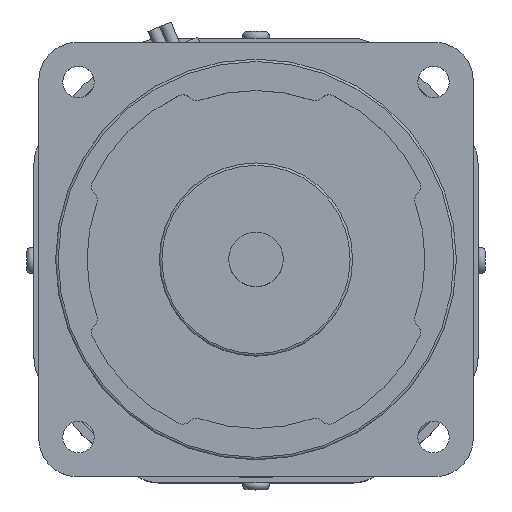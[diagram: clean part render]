
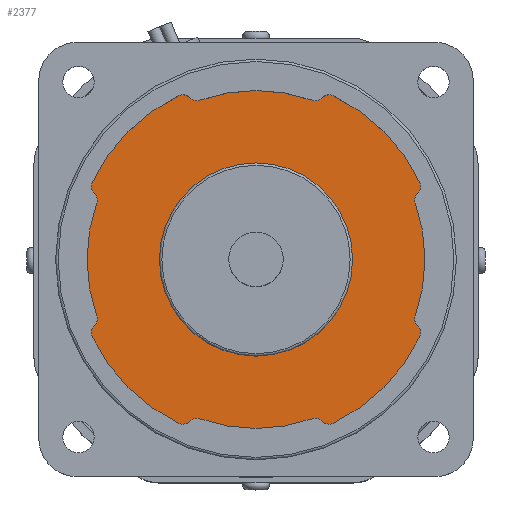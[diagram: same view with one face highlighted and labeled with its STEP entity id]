
A CAD part, top view. The second image highlights one B-rep face of the part: STEP entity #2377.
In plain terms, the highlighted planar face has unit normal (0, 0, 1).
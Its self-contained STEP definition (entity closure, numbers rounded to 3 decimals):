
#1058=CARTESIAN_POINT('',(20.0,0.,175.0));
#1059=VERTEX_POINT('',#1058);
#1060=CARTESIAN_POINT('',(0.,0.,175.0));
#1061=DIRECTION('',(0.0,0.0,-1.0));
#1062=DIRECTION('',(-1.0,0.0,0.0));
#1063=AXIS2_PLACEMENT_3D('',#1060,#1061,#1062);
#1064=CIRCLE('',#1063,20.0);
#1065=EDGE_CURVE('',#1059,#1059,#1064,.T.);
#1088=CARTESIAN_POINT('',(-13.722,-33.501,175.));
#1089=VERTEX_POINT('',#1088);
#1105=CARTESIAN_POINT('',(-11.626,-33.013,175.));
#1106=VERTEX_POINT('',#1105);
#1113=CARTESIAN_POINT('',(-12.291,-34.899,175.0));
#1114=DIRECTION('',(0.0,0.0,-1.0));
#1115=DIRECTION('',(-0.408,0.913,0.0));
#1116=AXIS2_PLACEMENT_3D('',#1113,#1114,#1115);
#1117=CIRCLE('',#1116,2.0);
#1118=EDGE_CURVE('',#1106,#1089,#1117,.F.);
#1138=CARTESIAN_POINT('',(11.626,-33.013,175.));
#1139=VERTEX_POINT('',#1138);
#1146=CARTESIAN_POINT('',(0.,0.,175.0));
#1147=DIRECTION('',(0.,0.,1.0));
#1148=DIRECTION('',(-0.383,-0.924,0.));
#1149=AXIS2_PLACEMENT_3D('',#1146,#1147,#1148);
#1150=CIRCLE('',#1149,35.0);
#1151=EDGE_CURVE('',#1106,#1139,#1150,.T.);
#1161=CARTESIAN_POINT('',(13.722,-33.501,175.));
#1162=VERTEX_POINT('',#1161);
#1171=CARTESIAN_POINT('',(12.291,-34.899,175.0));
#1172=DIRECTION('',(0.0,0.0,-1.0));
#1173=DIRECTION('',(0.408,0.913,0.0));
#1174=AXIS2_PLACEMENT_3D('',#1171,#1172,#1173);
#1175=CIRCLE('',#1174,2.0);
#1176=EDGE_CURVE('',#1162,#1139,#1175,.F.);
#1203=CARTESIAN_POINT('',(16.006,-33.913,175.));
#1204=VERTEX_POINT('',#1203);
#1211=CARTESIAN_POINT('',(15.152,-32.104,175.0));
#1212=DIRECTION('',(0.0,0.0,1.0));
#1213=DIRECTION('',(0.715,0.699,0.0));
#1214=AXIS2_PLACEMENT_3D('',#1211,#1212,#1213);
#1215=CIRCLE('',#1214,2.);
#1216=EDGE_CURVE('',#1162,#1204,#1215,.T.);
#1227=CARTESIAN_POINT('',(33.913,-16.006,175.));
#1228=VERTEX_POINT('',#1227);
#1237=CARTESIAN_POINT('',(0.,0.,175.0));
#1238=DIRECTION('',(0.,0.,1.0));
#1239=DIRECTION('',(0.383,-0.924,0.));
#1240=AXIS2_PLACEMENT_3D('',#1237,#1238,#1239);
#1241=CIRCLE('',#1240,37.5);
#1242=EDGE_CURVE('',#1204,#1228,#1241,.T.);
#1269=CARTESIAN_POINT('',(33.501,-13.722,175.));
#1270=VERTEX_POINT('',#1269);
#1277=CARTESIAN_POINT('',(32.104,-15.152,175.0));
#1278=DIRECTION('',(0.0,0.0,1.0));
#1279=DIRECTION('',(-0.904,0.427,0.0));
#1280=AXIS2_PLACEMENT_3D('',#1277,#1278,#1279);
#1281=CIRCLE('',#1280,2.);
#1282=EDGE_CURVE('',#1228,#1270,#1281,.T.);
#1303=CARTESIAN_POINT('',(33.013,-11.626,175.));
#1304=VERTEX_POINT('',#1303);
#1311=CARTESIAN_POINT('',(34.899,-12.291,175.0));
#1312=DIRECTION('',(0.0,0.0,-1.0));
#1313=DIRECTION('',(-0.913,-0.408,0.0));
#1314=AXIS2_PLACEMENT_3D('',#1311,#1312,#1313);
#1315=CIRCLE('',#1314,2.0);
#1316=EDGE_CURVE('',#1304,#1270,#1315,.F.);
#1326=CARTESIAN_POINT('',(33.013,11.626,175.));
#1327=VERTEX_POINT('',#1326);
#1336=CARTESIAN_POINT('',(0.,0.,175.0));
#1337=DIRECTION('',(0.,0.,1.0));
#1338=DIRECTION('',(0.924,-0.383,0.));
#1339=AXIS2_PLACEMENT_3D('',#1336,#1337,#1338);
#1340=CIRCLE('',#1339,35.);
#1341=EDGE_CURVE('',#1304,#1327,#1340,.T.);
#1359=CARTESIAN_POINT('',(33.501,13.722,175.));
#1360=VERTEX_POINT('',#1359);
#1369=CARTESIAN_POINT('',(34.899,12.291,175.0));
#1370=DIRECTION('',(0.0,0.0,-1.0));
#1371=DIRECTION('',(-0.913,0.408,0.0));
#1372=AXIS2_PLACEMENT_3D('',#1369,#1370,#1371);
#1373=CIRCLE('',#1372,2.0);
#1374=EDGE_CURVE('',#1360,#1327,#1373,.F.);
#1401=CARTESIAN_POINT('',(33.913,16.006,175.));
#1402=VERTEX_POINT('',#1401);
#1409=CARTESIAN_POINT('',(32.104,15.152,175.0));
#1410=DIRECTION('',(0.0,0.0,1.0));
#1411=DIRECTION('',(-0.699,0.715,0.0));
#1412=AXIS2_PLACEMENT_3D('',#1409,#1410,#1411);
#1413=CIRCLE('',#1412,2.);
#1414=EDGE_CURVE('',#1360,#1402,#1413,.T.);
#1425=CARTESIAN_POINT('',(16.006,33.913,175.));
#1426=VERTEX_POINT('',#1425);
#1435=CARTESIAN_POINT('',(0.,0.,175.0));
#1436=DIRECTION('',(0.,0.,1.0));
#1437=DIRECTION('',(0.924,0.383,0.));
#1438=AXIS2_PLACEMENT_3D('',#1435,#1436,#1437);
#1439=CIRCLE('',#1438,37.5);
#1440=EDGE_CURVE('',#1402,#1426,#1439,.T.);
#1467=CARTESIAN_POINT('',(13.722,33.501,175.));
#1468=VERTEX_POINT('',#1467);
#1475=CARTESIAN_POINT('',(15.152,32.104,175.0));
#1476=DIRECTION('',(0.0,0.0,1.0));
#1477=DIRECTION('',(-0.427,-0.904,0.0));
#1478=AXIS2_PLACEMENT_3D('',#1475,#1476,#1477);
#1479=CIRCLE('',#1478,2.);
#1480=EDGE_CURVE('',#1426,#1468,#1479,.T.);
#1501=CARTESIAN_POINT('',(11.626,33.013,175.));
#1502=VERTEX_POINT('',#1501);
#1509=CARTESIAN_POINT('',(12.291,34.899,175.0));
#1510=DIRECTION('',(0.0,0.0,-1.0));
#1511=DIRECTION('',(0.408,-0.913,0.0));
#1512=AXIS2_PLACEMENT_3D('',#1509,#1510,#1511);
#1513=CIRCLE('',#1512,2.0);
#1514=EDGE_CURVE('',#1502,#1468,#1513,.F.);
#1524=CARTESIAN_POINT('',(-11.626,33.013,175.));
#1525=VERTEX_POINT('',#1524);
#1534=CARTESIAN_POINT('',(0.,0.,175.0));
#1535=DIRECTION('',(0.,0.,1.0));
#1536=DIRECTION('',(0.383,0.924,0.));
#1537=AXIS2_PLACEMENT_3D('',#1534,#1535,#1536);
#1538=CIRCLE('',#1537,35.0);
#1539=EDGE_CURVE('',#1502,#1525,#1538,.T.);
#1557=CARTESIAN_POINT('',(-13.722,33.501,175.));
#1558=VERTEX_POINT('',#1557);
#1567=CARTESIAN_POINT('',(-12.291,34.899,175.0));
#1568=DIRECTION('',(0.0,0.0,-1.0));
#1569=DIRECTION('',(-0.408,-0.913,0.0));
#1570=AXIS2_PLACEMENT_3D('',#1567,#1568,#1569);
#1571=CIRCLE('',#1570,2.0);
#1572=EDGE_CURVE('',#1558,#1525,#1571,.F.);
#1599=CARTESIAN_POINT('',(-16.006,33.913,175.));
#1600=VERTEX_POINT('',#1599);
#1607=CARTESIAN_POINT('',(-15.152,32.104,175.0));
#1608=DIRECTION('',(0.0,0.0,1.0));
#1609=DIRECTION('',(-0.715,-0.699,0.0));
#1610=AXIS2_PLACEMENT_3D('',#1607,#1608,#1609);
#1611=CIRCLE('',#1610,2.);
#1612=EDGE_CURVE('',#1558,#1600,#1611,.T.);
#1633=CARTESIAN_POINT('',(-33.913,16.006,175.));
#1634=VERTEX_POINT('',#1633);
#1641=CARTESIAN_POINT('',(0.,0.,175.0));
#1642=DIRECTION('',(0.,0.,1.0));
#1643=DIRECTION('',(-0.383,0.924,0.));
#1644=AXIS2_PLACEMENT_3D('',#1641,#1642,#1643);
#1645=CIRCLE('',#1644,37.5);
#1646=EDGE_CURVE('',#1600,#1634,#1645,.T.);
#1665=CARTESIAN_POINT('',(-33.501,13.722,175.));
#1666=VERTEX_POINT('',#1665);
#1673=CARTESIAN_POINT('',(-32.104,15.152,175.0));
#1674=DIRECTION('',(0.0,0.0,1.0));
#1675=DIRECTION('',(0.904,-0.427,0.0));
#1676=AXIS2_PLACEMENT_3D('',#1673,#1674,#1675);
#1677=CIRCLE('',#1676,2.);
#1678=EDGE_CURVE('',#1634,#1666,#1677,.T.);
#1699=CARTESIAN_POINT('',(-33.013,11.626,175.));
#1700=VERTEX_POINT('',#1699);
#1707=CARTESIAN_POINT('',(-34.899,12.291,175.0));
#1708=DIRECTION('',(0.0,0.0,-1.0));
#1709=DIRECTION('',(0.913,0.408,0.0));
#1710=AXIS2_PLACEMENT_3D('',#1707,#1708,#1709);
#1711=CIRCLE('',#1710,2.0);
#1712=EDGE_CURVE('',#1700,#1666,#1711,.F.);
#1722=CARTESIAN_POINT('',(-33.013,-11.626,175.));
#1723=VERTEX_POINT('',#1722);
#1732=CARTESIAN_POINT('',(0.,0.,175.0));
#1733=DIRECTION('',(0.,0.,1.0));
#1734=DIRECTION('',(-0.924,0.383,0.));
#1735=AXIS2_PLACEMENT_3D('',#1732,#1733,#1734);
#1736=CIRCLE('',#1735,35.0);
#1737=EDGE_CURVE('',#1700,#1723,#1736,.T.);
#1755=CARTESIAN_POINT('',(-33.501,-13.722,175.));
#1756=VERTEX_POINT('',#1755);
#1765=CARTESIAN_POINT('',(-34.899,-12.291,175.0));
#1766=DIRECTION('',(0.0,0.0,-1.0));
#1767=DIRECTION('',(0.913,-0.408,0.0));
#1768=AXIS2_PLACEMENT_3D('',#1765,#1766,#1767);
#1769=CIRCLE('',#1768,2.0);
#1770=EDGE_CURVE('',#1756,#1723,#1769,.F.);
#1797=CARTESIAN_POINT('',(-33.913,-16.006,175.));
#1798=VERTEX_POINT('',#1797);
#1805=CARTESIAN_POINT('',(-32.104,-15.152,175.0));
#1806=DIRECTION('',(0.0,0.0,1.0));
#1807=DIRECTION('',(0.699,-0.715,0.0));
#1808=AXIS2_PLACEMENT_3D('',#1805,#1806,#1807);
#1809=CIRCLE('',#1808,2.);
#1810=EDGE_CURVE('',#1756,#1798,#1809,.T.);
#1821=CARTESIAN_POINT('',(-16.006,-33.913,175.));
#1822=VERTEX_POINT('',#1821);
#1831=CARTESIAN_POINT('',(0.,0.,175.0));
#1832=DIRECTION('',(0.,0.,1.0));
#1833=DIRECTION('',(-0.924,-0.383,0.));
#1834=AXIS2_PLACEMENT_3D('',#1831,#1832,#1833);
#1835=CIRCLE('',#1834,37.5);
#1836=EDGE_CURVE('',#1798,#1822,#1835,.T.);
#1862=CARTESIAN_POINT('',(-15.152,-32.104,175.0));
#1863=DIRECTION('',(0.0,0.0,1.0));
#1864=DIRECTION('',(0.427,0.904,0.0));
#1865=AXIS2_PLACEMENT_3D('',#1862,#1863,#1864);
#1866=CIRCLE('',#1865,2.);
#1867=EDGE_CURVE('',#1822,#1089,#1866,.T.);
#2343=CARTESIAN_POINT('',(0.,0.,175.0));
#2344=DIRECTION('',(0.0,0.0,1.0));
#2345=DIRECTION('',(1.0,0.0,0.0));
#2346=AXIS2_PLACEMENT_3D('',#2343,#2344,#2345);
#2347=PLANE('',#2346);
#2348=ORIENTED_EDGE('',*,*,#1867,.T.);
#2349=ORIENTED_EDGE('',*,*,#1118,.F.);
#2350=ORIENTED_EDGE('',*,*,#1151,.T.);
#2351=ORIENTED_EDGE('',*,*,#1176,.F.);
#2352=ORIENTED_EDGE('',*,*,#1216,.T.);
#2353=ORIENTED_EDGE('',*,*,#1242,.T.);
#2354=ORIENTED_EDGE('',*,*,#1282,.T.);
#2355=ORIENTED_EDGE('',*,*,#1316,.F.);
#2356=ORIENTED_EDGE('',*,*,#1341,.T.);
#2357=ORIENTED_EDGE('',*,*,#1374,.F.);
#2358=ORIENTED_EDGE('',*,*,#1414,.T.);
#2359=ORIENTED_EDGE('',*,*,#1440,.T.);
#2360=ORIENTED_EDGE('',*,*,#1480,.T.);
#2361=ORIENTED_EDGE('',*,*,#1514,.F.);
#2362=ORIENTED_EDGE('',*,*,#1539,.T.);
#2363=ORIENTED_EDGE('',*,*,#1572,.F.);
#2364=ORIENTED_EDGE('',*,*,#1612,.T.);
#2365=ORIENTED_EDGE('',*,*,#1646,.T.);
#2366=ORIENTED_EDGE('',*,*,#1678,.T.);
#2367=ORIENTED_EDGE('',*,*,#1712,.F.);
#2368=ORIENTED_EDGE('',*,*,#1737,.T.);
#2369=ORIENTED_EDGE('',*,*,#1770,.F.);
#2370=ORIENTED_EDGE('',*,*,#1810,.T.);
#2371=ORIENTED_EDGE('',*,*,#1836,.T.);
#2372=EDGE_LOOP('',(#2348,#2349,#2350,#2351,#2352,#2353,#2354,#2355,#2356,#2357,#2358,#2359,#2360,#2361,#2362,#2363,#2364,#2365,#2366,#2367,#2368,#2369,#2370,#2371));
#2373=FACE_OUTER_BOUND('',#2372,.T.);
#2374=ORIENTED_EDGE('',*,*,#1065,.T.);
#2375=EDGE_LOOP('',(#2374));
#2376=FACE_BOUND('',#2375,.T.);
#2377=ADVANCED_FACE('',(#2373,#2376),#2347,.T.);
